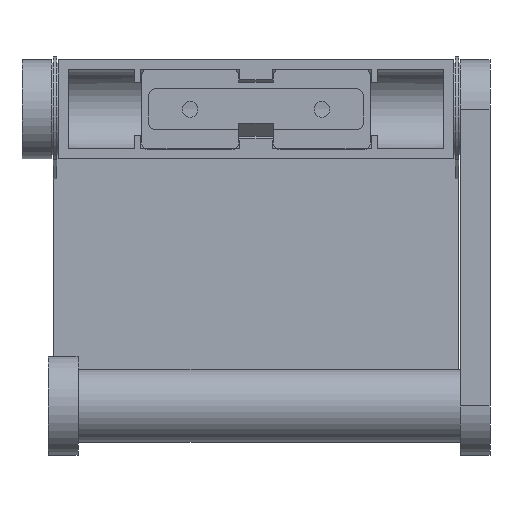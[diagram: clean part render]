
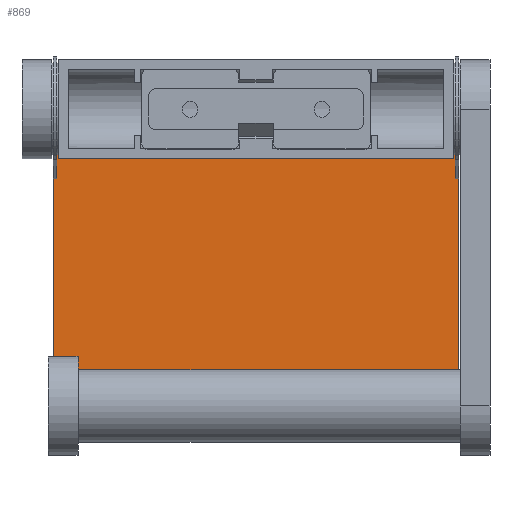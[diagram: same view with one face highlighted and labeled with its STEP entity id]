
A CAD part, left-side view. The second image highlights one B-rep face of the part: STEP entity #869.
In plain terms, the highlighted planar face has unit normal (-1, 0, 0).
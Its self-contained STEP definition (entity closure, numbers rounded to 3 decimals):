
#185=LINE('',#4044,#405);
#187=LINE('',#4052,#407);
#197=LINE('',#4076,#417);
#199=LINE('',#4080,#419);
#200=LINE('',#4082,#420);
#201=LINE('',#4084,#421);
#202=LINE('',#4086,#422);
#203=LINE('',#4087,#423);
#405=VECTOR('',#3310,1.);
#407=VECTOR('',#3318,1.);
#417=VECTOR('',#3336,1.);
#419=VECTOR('',#3340,1.);
#420=VECTOR('',#3341,1.);
#421=VECTOR('',#3342,1.);
#422=VECTOR('',#3343,1.);
#423=VECTOR('',#3344,1.);
#618=PLANE('',#2810);
#721=FACE_OUTER_BOUND('',#1203,.T.);
#869=ADVANCED_FACE('',(#721),#618,.T.);
#1203=EDGE_LOOP('',(#1607,#1608,#1609,#1610,#1611,#1612,#1613,#1614));
#1607=ORIENTED_EDGE('',*,*,#2371,.T.);
#1608=ORIENTED_EDGE('',*,*,#2372,.F.);
#1609=ORIENTED_EDGE('',*,*,#2373,.F.);
#1610=ORIENTED_EDGE('',*,*,#2374,.F.);
#1611=ORIENTED_EDGE('',*,*,#2369,.F.);
#1612=ORIENTED_EDGE('',*,*,#2357,.T.);
#1613=ORIENTED_EDGE('',*,*,#2375,.T.);
#1614=ORIENTED_EDGE('',*,*,#2353,.T.);
#2075=VERTEX_POINT('',#4043);
#2076=VERTEX_POINT('',#4045);
#2079=VERTEX_POINT('',#4053);
#2080=VERTEX_POINT('',#4054);
#2089=VERTEX_POINT('',#4077);
#2090=VERTEX_POINT('',#4081);
#2091=VERTEX_POINT('',#4083);
#2092=VERTEX_POINT('',#4085);
#2353=EDGE_CURVE('',#2076,#2075,#185,.T.);
#2357=EDGE_CURVE('',#2079,#2080,#187,.T.);
#2369=EDGE_CURVE('',#2079,#2089,#197,.T.);
#2371=EDGE_CURVE('',#2075,#2090,#199,.T.);
#2372=EDGE_CURVE('',#2091,#2090,#200,.T.);
#2373=EDGE_CURVE('',#2092,#2091,#201,.T.);
#2374=EDGE_CURVE('',#2089,#2092,#202,.T.);
#2375=EDGE_CURVE('',#2080,#2076,#203,.T.);
#2810=AXIS2_PLACEMENT_3D('',#4088,#3345,#3346);
#3310=DIRECTION('',(0.,0.,-1.));
#3318=DIRECTION('',(0.,0.,-1.));
#3336=DIRECTION('',(0.,-1.,0.));
#3340=DIRECTION('',(0.,-1.,0.));
#3341=DIRECTION('',(0.,0.,-1.));
#3342=DIRECTION('',(0.,-1.,0.));
#3343=DIRECTION('',(0.,0.,-1.));
#3344=DIRECTION('',(0.,1.,0.));
#3345=DIRECTION('',(-1.,0.,0.));
#3346=DIRECTION('',(0.,0.,1.));
#4043=CARTESIAN_POINT('',(449.64,-79.631,-513.283));
#4044=CARTESIAN_POINT('',(449.64,-79.631,-513.283));
#4045=CARTESIAN_POINT('',(449.64,-79.631,-444.329));
#4052=CARTESIAN_POINT('',(449.64,-80.631,-430.283));
#4053=CARTESIAN_POINT('',(449.64,-80.631,-430.283));
#4054=CARTESIAN_POINT('',(449.64,-80.631,-444.329));
#4076=CARTESIAN_POINT('',(449.64,-80.631,-430.283));
#4077=CARTESIAN_POINT('',(449.64,-201.631,-430.283));
#4080=CARTESIAN_POINT('',(449.64,-80.631,-513.283));
#4081=CARTESIAN_POINT('',(449.64,-202.631,-513.283));
#4082=CARTESIAN_POINT('',(449.64,-202.631,-513.283));
#4083=CARTESIAN_POINT('',(449.64,-202.631,-444.329));
#4084=CARTESIAN_POINT('',(449.64,-96.631,-444.329));
#4085=CARTESIAN_POINT('',(449.64,-201.631,-444.329));
#4086=CARTESIAN_POINT('',(449.64,-201.631,-456.209));
#4087=CARTESIAN_POINT('',(449.64,-79.631,-444.329));
#4088=CARTESIAN_POINT('',(449.64,-80.631,-456.209));
